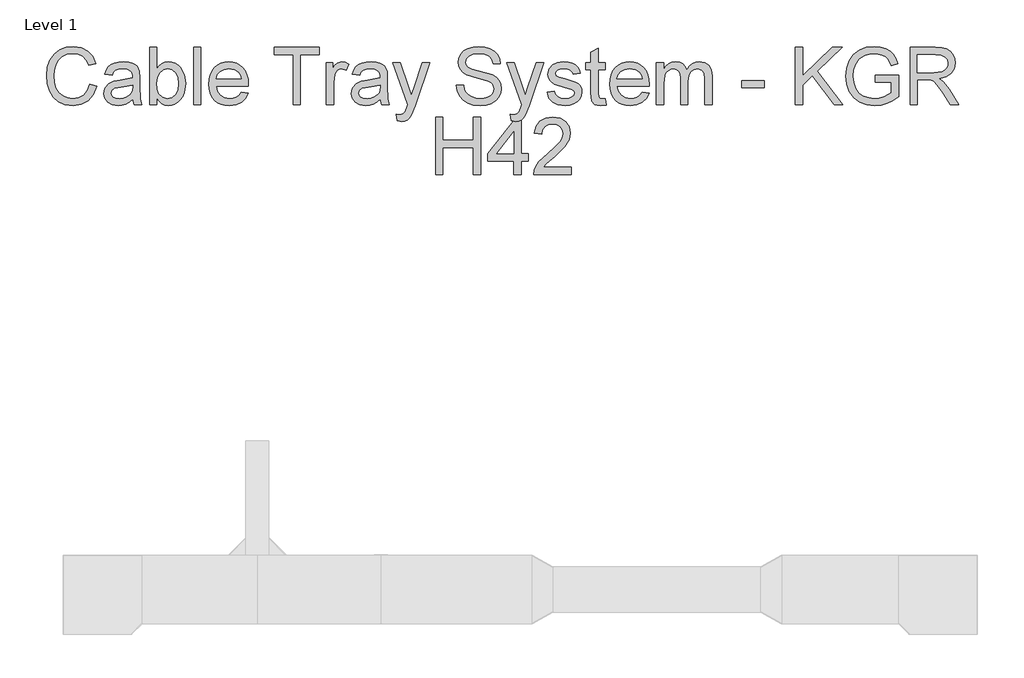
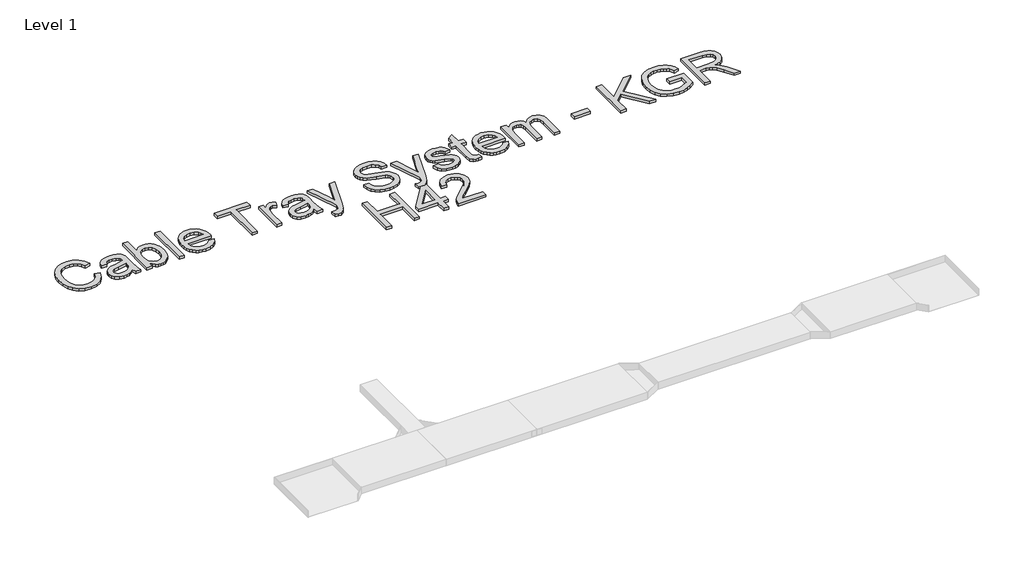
# One storey, part 13 of 32: 1 proxy.
"""IFC4 building model written with IfcOpenShell, lengths in millimetres."""

from ifc_helpers import new_model, si_unit, origin, origin_with_axes, place, context, project, spatial, polyline, outline, extrude, element, save

model = new_model("IFC4")

# Units and contexts
model_context = context("Model", 3, world=origin())
ifc_project = project(units=[si_unit("LENGTHUNIT", "METRE", prefix="MILLI")], contexts=[model_context])

# Site, building, storey
site = spatial("IfcSite", under=ifc_project)
building = spatial("IfcBuilding", under=site)
storey = spatial("IfcBuildingStorey", under=building, Name="Level 1", Elevation=0.0)

# Proxy
placement = place(None, origin())
element("IfcBuildingElementProxy", 1, Name="250mm Arial 3", ObjectType="250mm Arial 3", at=placement, inside=storey, context=model_context, shape_type="SweptSolid", body=[
    extrude(outline(polyline([(-11377.6500702, 60192.4106539), (-11346.2574733, 60184.31725), (-11360.7428268, 60147.7359841), (-11383.4748685, 60121.01089), (-11413.3346237, 60104.6631338), (-11449.2031183, 60099.2138818), (-11485.6157716, 60103.3372258), (-11514.5328292, 60115.7072579), (-11536.6977194, 60135.8947824), (-11552.8538704, 60163.4706036), (-11562.7177064, 60195.8902044), (-11566.0056517, 60230.6090677), (-11562.2885107, 60267.2286547), (-11551.1370878, 60298.8511778), (-11533.1338626, 60324.472626), (-11508.8613151, 60343.0889878), (-11480.074549, 60354.4243517), (-11448.5286679, 60358.2028064), (-11414.1087088, 60353.3130415), (-11385.6515036, 60338.643747), (-11364.0461006, 60315.0992993), (-11350.1815479, 60283.584075), (-11381.5741448, 60276.1038078), (-11392.4573205, 60298.9967978), (-11407.3258845, 60314.7007605), (-11426.3637777, 60323.7828472), (-11449.7549413, 60326.8102095), (-11476.7176258, 60323.4532863), (-11498.8671876, 60313.3825166), (-11515.6747963, 60297.6555613), (-11526.6116214, 60277.3300811), (-11532.6126965, 60254.3527848), (-11534.6130548, 60230.6703814), (-11532.2448145, 60201.6690174), (-11525.1400934, 60176.5917281), (-11513.0306444, 60156.3965394), (-11495.6482202, 60142.0414774), (-11474.809238, 60133.4652284), (-11452.3301152, 60130.6064787), (-11426.1261873, 60134.4998965), (-11404.290858, 60146.1801498), (-11387.8051461, 60165.5246114), (-11377.6500702, 60192.4106539)])), origin_with_axes(), (0.0, 0.0, 1.0), 15.0),
    extrude(outline(polyline([(-11189.2944887, 60126.6824041), (-11204.2933442, 60113.8218627), (-11219.7367238, 60105.406562), (-11235.977181, 60100.7620518), (-11253.3672695, 60099.2138818), (-11279.6018543, 60102.938687), (-11298.9539801, 60114.1131026), (-11310.8871523, 60131.0816596), (-11314.8648764, 60152.1888891), (-11313.3626915, 60165.2027147), (-11308.8561371, 60177.0209238), (-11293.0678681, 60195.0471415), (-11271.0869189, 60205.3478374), (-11243.924965, 60210.0689897), (-11189.4784297, 60220.8601949), (-11189.2944887, 60227.8499528), (-11191.4557954, 60241.8601254), (-11197.9397156, 60251.0265185), (-11212.4403975, 60257.8323354), (-11232.6432504, 60260.100941), (-11251.3439185, 60258.591092), (-11264.4037293, 60254.0615449), (-11273.3095393, 60245.6845653), (-11279.5482048, 60232.6324187), (-11310.9408017, 60236.5564933), (-11305.4915497, 60253.7243198), (-11297.3598247, 60267.2133262), (-11285.7868703, 60277.5293505), (-11270.0139298, 60285.1782303), (-11250.7231177, 60289.914711), (-11228.5965485, 60291.4935379), (-11207.3743559, 60290.098652), (-11190.5514188, 60285.9139943), (-11177.8671542, 60279.6216794), (-11169.0609789, 60271.9038217), (-11159.4347334, 60250.5973228), (-11157.9018917, 60223.1288005), (-11157.9018917, 60184.0719953), (-11156.3077364, 60129.5334895), (-11150.0537425, 60103.1379564), (-11181.4463394, 60103.1379564), (-11189.2944887, 60126.6824041)]), holes=[polyline([(-11189.2944887, 60189.4675979), (-11239.9395767, 60179.8413524), (-11266.9482465, 60174.7523181), (-11279.1803228, 60166.4749732), (-11283.4722794, 60154.3961811), (-11281.1346959, 60145.0611754), (-11274.1219454, 60137.4122956), (-11262.587312, 60132.3079329), (-11246.6840799, 60130.6064787), (-11229.8228218, 60132.4842097), (-11214.923601, 60138.1174028), (-11202.8448088, 60146.4177403), (-11194.4448366, 60156.2969047), (-11190.7200314, 60166.4749732), (-11189.4784297, 60180.5771164), (-11189.2944887, 60189.4675979)])]), origin_with_axes(), (0.0, 0.0, 1.0), 15.0),
    extrude(outline(polyline([(-11083.3444741, 60103.1379564), (-11114.737071, 60103.1379564), (-11114.737071, 60354.2787318), (-11083.3444741, 60354.2787318), (-11083.3444741, 60261.1432733), (-11073.0207856, 60274.4215141), (-11061.3635248, 60283.9059718), (-11048.3726919, 60289.5966464), (-11034.0482867, 60291.4935379), (-11017.8768073, 60289.7844195), (-11002.5943761, 60284.6570642), (-10989.0747128, 60276.4333687), (-10978.1915371, 60265.4352299), (-10963.2003458, 60235.5448178), (-10957.7740864, 60198.1128248), (-10963.391951, 60156.2049342), (-10970.4142818, 60139.2746982), (-10980.2455449, 60125.0269351), (-10992.0465095, 60113.7337243), (-11004.9779449, 60105.6671451), (-11019.0398509, 60100.8271976), (-11034.2322277, 60099.2138818), (-11049.0279817, 60101.2947143), (-11062.1452741, 60107.5372119), (-11073.5841049, 60117.9413746), (-11083.3444741, 60132.5072023), (-11083.3444741, 60103.1379564)]), holes=[polyline([(-11083.3444741, 60196.6412968), (-11081.1984958, 60170.4603615), (-11074.7605608, 60152.7407121), (-11058.31317, 60136.140037), (-11036.930029, 60130.6064787), (-11018.8118407, 60134.6838375), (-11003.3301401, 60146.9159138), (-10992.7075475, 60167.2260656), (-10989.1666833, 60195.5376509), (-10992.5619275, 60224.2631033), (-11002.7476603, 60244.3433289), (-11017.7465158, 60256.161538), (-11035.5811283, 60260.100941), (-11053.6993166, 60256.0235822), (-11069.1810172, 60243.7915059), (-11079.8036099, 60223.8492361), (-11083.3444741, 60196.6412968)])]), origin_with_axes(), (0.0, 0.0, 1.0), 15.0),
    extrude(outline(polyline([(-10922.4574148, 60103.1379564), (-10922.4574148, 60354.2787318), (-10891.0648179, 60354.2787318), (-10891.0648179, 60103.1379564), (-10922.4574148, 60103.1379564)])), origin_with_axes(), (0.0, 0.0, 1.0), 15.0),
    extrude(outline(polyline([(-10714.8493422, 60158.075001), (-10684.069882, 60154.1509264), (-10695.1599913, 60130.9590323), (-10712.8566481, 60113.6225933), (-10736.7613136, 60102.8160597), (-10766.4754489, 60099.2138818), (-10785.9540341, 60100.7678), (-10803.3096336, 60105.4295547), (-10818.5422475, 60113.1991458), (-10831.6518757, 60124.0765733), (-10842.1939941, 60137.759101), (-10849.7240787, 60153.9439928), (-10854.2421295, 60172.6312485), (-10855.7481464, 60193.8208682), (-10854.226801, 60215.7290074), (-10849.662765, 60235.0389801), (-10842.0560384, 60251.7507861), (-10831.406621, 60265.8644256), (-10818.3314818, 60277.0771622), (-10803.4475894, 60285.0862598), (-10786.7549439, 60289.8917184), (-10768.2535452, 60291.4935379), (-10750.3480387, 60289.8955505), (-10734.1554828, 60285.1015883), (-10719.6758774, 60277.1116512), (-10706.9092225, 60265.9257393), (-10696.4878153, 60251.8427566), (-10689.0439531, 60235.1616074), (-10684.5776358, 60215.8822916), (-10683.0888633, 60194.0048092), (-10683.2728043, 60185.5435233), (-10824.3555495, 60185.5435233), (-10818.9216258, 60162.0450609), (-10806.2986749, 60144.7699355), (-10788.0808519, 60134.1473429), (-10765.8623122, 60130.6064787), (-10749.1543383, 60132.2466193), (-10735.082852, 60137.1670409), (-10723.6478533, 60145.6743121), (-10714.8493422, 60158.075001)]), holes=[polyline([(-10824.3555495, 60216.9361202), (-10714.4814602, 60216.9361202), (-10718.7274316, 60233.5214669), (-10727.0507617, 60245.3856612), (-10745.352891, 60256.4221211), (-10768.3761725, 60260.100941), (-10789.5370514, 60257.1655493), (-10807.0344388, 60248.359374), (-10819.1975373, 60234.632777), (-10824.3555495, 60216.9361202)])]), origin_with_axes(), (0.0, 0.0, 1.0), 15.0),
    extrude(outline(polyline([(-10486.8851325, 60103.1379564), (-10486.8851325, 60322.8861348), (-10569.2906995, 60322.8861348), (-10569.2906995, 60354.2787318), (-10373.0869687, 60354.2787318), (-10373.0869687, 60322.8861348), (-10455.4925356, 60322.8861348), (-10455.4925356, 60103.1379564), (-10486.8851325, 60103.1379564)])), origin_with_axes(), (0.0, 0.0, 1.0), 15.0),
    extrude(outline(polyline([(-10341.6943718, 60103.1379564), (-10341.6943718, 60287.5694633), (-10314.2258495, 60287.5694633), (-10314.2258495, 60260.284882), (-10304.0784378, 60276.1038078), (-10294.7281037, 60285.423485), (-10275.1077307, 60291.4935379), (-10259.4727459, 60289.0716481), (-10243.5925064, 60281.8059787), (-10254.0771433, 60253.6630061), (-10276.150063, 60260.100941), (-10285.5233896, 60258.5527709), (-10293.9003692, 60253.9082608), (-10305.2127406, 60236.7404343), (-10310.3017749, 60200.0748621), (-10310.3017749, 60103.1379564), (-10341.6943718, 60103.1379564)])), origin_with_axes(), (0.0, 0.0, 1.0), 15.0),
    extrude(outline(polyline([(-10106.2498949, 60126.6824041), (-10121.2487504, 60113.8218627), (-10136.69213, 60105.406562), (-10152.9325872, 60100.7620518), (-10170.3226757, 60099.2138818), (-10196.5572605, 60102.938687), (-10215.9093863, 60114.1131026), (-10227.8425585, 60131.0816596), (-10231.8202826, 60152.1888891), (-10230.3180977, 60165.2027147), (-10225.8115433, 60177.0209238), (-10210.0232743, 60195.0471415), (-10188.0423251, 60205.3478374), (-10160.8803711, 60210.0689897), (-10106.4338359, 60220.8601949), (-10106.2498949, 60227.8499528), (-10108.4112016, 60241.8601254), (-10114.8951218, 60251.0265185), (-10129.3958037, 60257.8323354), (-10149.5986566, 60260.100941), (-10168.2993247, 60258.591092), (-10181.3591355, 60254.0615449), (-10190.2649455, 60245.6845653), (-10196.503611, 60232.6324187), (-10227.8962079, 60236.5564933), (-10222.4469559, 60253.7243198), (-10214.3152309, 60267.2133262), (-10202.7422765, 60277.5293505), (-10186.969336, 60285.1782303), (-10167.6785239, 60289.914711), (-10145.5519547, 60291.4935379), (-10124.3297621, 60290.098652), (-10107.506825, 60285.9139943), (-10094.8225604, 60279.6216794), (-10086.0163851, 60271.9038217), (-10076.3901396, 60250.5973228), (-10074.8572979, 60223.1288005), (-10074.8572979, 60184.0719953), (-10073.2631426, 60129.5334895), (-10067.0091487, 60103.1379564), (-10098.4017456, 60103.1379564), (-10106.2498949, 60126.6824041)]), holes=[polyline([(-10106.2498949, 60189.4675979), (-10156.8949829, 60179.8413524), (-10183.9036527, 60174.7523181), (-10196.135729, 60166.4749732), (-10200.4276856, 60154.3961811), (-10198.0901021, 60145.0611754), (-10191.0773516, 60137.4122956), (-10179.5427182, 60132.3079329), (-10163.6394861, 60130.6064787), (-10146.778228, 60132.4842097), (-10131.8790072, 60138.1174028), (-10119.800215, 60146.4177403), (-10111.4002428, 60156.2969047), (-10107.6754376, 60166.4749732), (-10106.4338359, 60180.5771164), (-10106.2498949, 60189.4675979)])]), origin_with_axes(), (0.0, 0.0, 1.0), 15.0),
    extrude(outline(polyline([(-10031.6924772, 60032.5046133), (-10035.6165518, 60062.7322506), (-10019.6749987, 60059.9731356), (-10004.7757779, 60063.4373577), (-9995.6400416, 60073.0942601), (-9987.0561284, 60096.2095122), (-9984.6035818, 60103.8124067), (-10051.3128503, 60287.5694633), (-10018.2034707, 60287.5694633), (-9982.8254855, 60185.1756413), (-9970.5014386, 60144.2181125), (-9958.1773918, 60180.3931754), (-9921.818388, 60287.5694633), (-9888.954263, 60287.5694633), (-9953.1496712, 60098.7233725), (-9969.8269883, 60057.7658437), (-9978.3649163, 60044.6907044), (-9988.0371471, 60035.6316103), (-9999.2728764, 60030.3433066), (-10012.5012998, 60028.5805387), (-10031.6924772, 60032.5046133)])), origin_with_axes(), (0.0, 0.0, 1.0), 15.0),
    extrude(outline(polyline([(-9772.7035526, 60189.4675979), (-9741.3109557, 60189.4675979), (-9737.7087778, 60172.0468526), (-9731.1942008, 60158.0443442), (-9721.0314607, 60146.9312422), (-9706.4847934, 60138.1787164), (-9688.7038303, 60132.4995381), (-9668.8382026, 60130.6064787), (-9651.3484794, 60132.0396856), (-9636.0353914, 60136.3393065), (-9623.6270382, 60143.1451234), (-9614.8515198, 60152.0969186), (-9609.632194, 60162.3746218), (-9607.8924187, 60173.1581628), (-9613.1040803, 60192.7478791), (-9621.0442001, 60200.4963936), (-9634.4412361, 60207.0033064), (-9680.150574, 60218.990128), (-9729.3547908, 60234.4718287), (-9744.9821114, 60245.0331076), (-9756.0568923, 60257.8323354), (-9762.6557756, 60272.5936004), (-9764.8554033, 60289.0409913), (-9762.1346094, 60307.4274268), (-9753.9722277, 60324.5722607), (-9740.5828559, 60339.1035995), (-9722.1810919, 60349.64955), (-9700.0928438, 60356.0644923), (-9675.6440195, 60358.2028064), (-9649.1565159, 60355.9648576), (-9625.9799502, 60349.2510112), (-9606.9420569, 60338.1992229), (-9592.8705706, 60322.9474485), (-9583.9647606, 60304.4460498), (-9580.4238964, 60283.6453887), (-9611.8164933, 60283.6453887), (-9617.5799779, 60302.3767136), (-9629.5974564, 60315.8963769), (-9648.3747666, 60324.0817513), (-9674.4177462, 60326.8102095), (-9701.0738624, 60324.1124082), (-9719.3606633, 60316.0190043), (-9729.9372706, 60304.1088247), (-9733.4628064, 60289.9606963), (-9730.9642745, 60277.8972325), (-9723.4686789, 60268.1943449), (-9705.7490295, 60259.5184612), (-9672.2104542, 60250.6586365), (-9616.660273, 60234.9010243), (-9598.7643467, 60223.5120109), (-9586.2793515, 60209.455853), (-9578.9447042, 60192.8858348), (-9576.4998218, 60173.9552405), (-9579.3125862, 60154.6031147), (-9587.7508795, 60136.4006201), (-9601.4698122, 60120.7349785), (-9620.1244951, 60108.9934115), (-9642.5576326, 60101.6587642), (-9667.6119293, 60099.2138818), (-9698.3683969, 60101.8503694), (-9723.6832767, 60109.7598323), (-9743.8478086, 60122.9729273), (-9759.1532324, 60141.5203112), (-9768.9787474, 60164.1143971), (-9772.7035526, 60189.4675979)])), origin_with_axes(), (0.0, 0.0, 1.0), 15.0),
    extrude(outline(polyline([(-9533.335001, 60032.5046133), (-9537.2590757, 60062.7322506), (-9521.3175225, 60059.9731356), (-9506.4183017, 60063.4373577), (-9497.2825655, 60073.0942601), (-9488.6986523, 60096.2095122), (-9486.2461057, 60103.8124067), (-9552.9553741, 60287.5694633), (-9519.8459946, 60287.5694633), (-9484.4680094, 60185.1756413), (-9472.1439625, 60144.2181125), (-9459.8199157, 60180.3931754), (-9423.4609118, 60287.5694633), (-9390.5967869, 60287.5694633), (-9454.7921951, 60098.7233725), (-9471.4695122, 60057.7658437), (-9480.0074402, 60044.6907044), (-9489.6796709, 60035.6316103), (-9500.9154002, 60030.3433066), (-9514.1438236, 60028.5805387), (-9533.335001, 60032.5046133)])), origin_with_axes(), (0.0, 0.0, 1.0), 15.0),
    extrude(outline(polyline([(-9376.3720164, 60158.075001), (-9344.9794195, 60161.9990756), (-9340.028341, 60148.5713828), (-9330.4480807, 60138.6998826), (-9316.177325, 60132.6298297), (-9297.1547601, 60130.6064787), (-9278.3621216, 60132.4612171), (-9265.1490266, 60138.0254323), (-9257.3315342, 60146.0881793), (-9254.7257034, 60155.4385134), (-9257.3468626, 60163.4399468), (-9265.2103402, 60169.5406565), (-9297.5226421, 60178.4924517), (-9344.7954785, 60193.851525), (-9356.7593076, 60201.5693827), (-9365.4275271, 60211.7857723), (-9370.6928381, 60223.8492361), (-9372.4479418, 60237.1083163), (-9366.8070846, 60260.4994798), (-9351.4173544, 60278.3724134), (-9331.4597562, 60287.6614338), (-9304.4510864, 60291.4935379), (-9284.0183072, 60289.9530321), (-9266.2526725, 60285.3315145), (-9251.9665884, 60278.0811735), (-9241.9724609, 60268.6541974), (-9235.350585, 60256.3531432), (-9231.1812557, 60240.4805679), (-9262.5738526, 60236.5564933), (-9266.5362483, 60246.4356577), (-9274.3767333, 60253.8776039), (-9286.1719497, 60258.5451067), (-9301.9985397, 60260.100941), (-9320.0247575, 60258.6140846), (-9332.042236, 60254.1535154), (-9338.8020677, 60247.7155805), (-9341.0553449, 60240.2966269), (-9337.3152113, 60231.1608907), (-9325.6043011, 60224.2324465), (-9298.5649745, 60217.5492569), (-9252.4877546, 60202.7726634), (-9240.3169919, 60195.7062634), (-9231.0892852, 60186.0340326), (-9225.2721511, 60173.7253142), (-9223.3331064, 60158.7494513), (-9225.6093763, 60143.2677507), (-9232.4381858, 60128.7057551), (-9243.558952, 60116.2054314), (-9258.7110916, 60106.9087468), (-9277.0132209, 60101.137598), (-9297.5839558, 60099.2138818), (-9329.2371358, 60102.9233586), (-9352.3370594, 60114.0517889), (-9367.7574464, 60132.4765455), (-9376.3720164, 60158.075001)])), origin_with_axes(), (0.0, 0.0, 1.0), 15.0),
    extrude(outline(polyline([(-9121.3071664, 60129.3188917), (-9117.3830918, 60102.2182514), (-9140.8662259, 60099.2138818), (-9155.9340592, 60100.5167972), (-9167.1697885, 60104.4255434), (-9180.290913, 60118.0984909), (-9184.0923603, 60153.7217307), (-9184.0923603, 60256.1768664), (-9207.636808, 60256.1768664), (-9207.636808, 60287.5694633), (-9184.0923603, 60287.5694633), (-9184.0923603, 60332.3897531), (-9152.6997634, 60350.8451665), (-9152.6997634, 60287.5694633), (-9121.3071664, 60287.5694633), (-9121.3071664, 60256.1768664), (-9152.6997634, 60256.1768664), (-9152.6997634, 60154.6414357), (-9151.0442944, 60138.4546279), (-9145.6793486, 60132.7218002), (-9134.9801139, 60130.6064787), (-9121.3071664, 60129.3188917)])), origin_with_axes(), (0.0, 0.0, 1.0), 15.0),
    extrude(outline(polyline([(-8960.7879892, 60158.075001), (-8930.008529, 60154.1509264), (-8941.0986383, 60130.9590323), (-8958.7952951, 60113.6225933), (-8982.6999606, 60102.8160597), (-9012.4140959, 60099.2138818), (-9031.8926811, 60100.7678), (-9049.2482806, 60105.4295547), (-9064.4808945, 60113.1991458), (-9077.5905227, 60124.0765733), (-9088.1326411, 60137.759101), (-9095.6627257, 60153.9439928), (-9100.1807765, 60172.6312485), (-9101.6867934, 60193.8208682), (-9100.165448, 60215.7290074), (-9095.601412, 60235.0389801), (-9087.9946854, 60251.7507861), (-9077.345268, 60265.8644256), (-9064.2701288, 60277.0771622), (-9049.3862364, 60285.0862598), (-9032.6935909, 60289.8917184), (-9014.1921922, 60291.4935379), (-8996.2866857, 60289.8955505), (-8980.0941298, 60285.1015883), (-8965.6145244, 60277.1116512), (-8952.8478695, 60265.9257393), (-8942.4264623, 60251.8427566), (-8934.9826001, 60235.1616074), (-8930.5162827, 60215.8822916), (-8929.0275103, 60194.0048092), (-8929.2114513, 60185.5435233), (-9070.2941964, 60185.5435233), (-9064.8602728, 60162.0450609), (-9052.2373219, 60144.7699355), (-9034.0194989, 60134.1473429), (-9011.8009592, 60130.6064787), (-8995.0929853, 60132.2466193), (-8981.021499, 60137.1670409), (-8969.5865003, 60145.6743121), (-8960.7879892, 60158.075001)]), holes=[polyline([(-9070.2941964, 60216.9361202), (-8960.4201072, 60216.9361202), (-8964.6660786, 60233.5214669), (-8972.9894087, 60245.3856612), (-8991.291538, 60256.4221211), (-9014.3148195, 60260.100941), (-9035.4756984, 60257.1655493), (-9052.9730858, 60248.359374), (-9065.1361843, 60234.632777), (-9070.2941964, 60216.9361202)])]), origin_with_axes(), (0.0, 0.0, 1.0), 15.0),
    extrude(outline(polyline([(-8897.6349134, 60103.1379564), (-8897.6349134, 60287.5694633), (-8866.2423165, 60287.5694633), (-8866.2423165, 60257.2191987), (-8856.8000119, 60271.1603935), (-8844.6599061, 60282.0818902), (-8830.2358662, 60289.140626), (-8813.9417595, 60291.4935379), (-8796.4826931, 60289.0946407), (-8782.4878489, 60281.8979492), (-8772.0338689, 60270.3786442), (-8765.1973951, 60255.0119067), (-8753.7547322, 60270.9726204), (-8740.7025856, 60282.3731301), (-8726.0409553, 60289.213436), (-8709.7698412, 60291.4935379), (-8686.171744, 60287.6997549), (-8668.7203419, 60276.3184056), (-8657.9368009, 60257.0429219), (-8654.3422872, 60229.5667354), (-8654.3422872, 60103.1379564), (-8685.7348842, 60103.1379564), (-8685.7348842, 60216.0777289), (-8688.6472833, 60242.2893211), (-8699.1932338, 60255.1958477), (-8717.1274811, 60260.100941), (-8734.1343591, 60256.9586156), (-8747.9989118, 60247.5316395), (-8757.2189543, 60231.1762191), (-8760.2923018, 60207.248561), (-8760.2923018, 60103.1379564), (-8791.6848988, 60103.1379564), (-8791.6848988, 60219.5726079), (-8793.5013161, 60237.3229141), (-8798.9505682, 60249.9841861), (-8808.5384927, 60257.5717523), (-8822.7709274, 60260.100941), (-8834.865048, 60258.4148152), (-8846.0088067, 60253.3564378), (-8855.2058566, 60245.048436), (-8861.4598505, 60233.6134374), (-8866.2423165, 60196.1507875), (-8866.2423165, 60103.1379564), (-8897.6349134, 60103.1379564)])), origin_with_axes(), (0.0, 0.0, 1.0), 15.0),
    extrude(outline(polyline([(-8524.8478249, 60177.6953741), (-8524.8478249, 60209.087971), (-8426.7459596, 60209.087971), (-8426.7459596, 60177.6953741), (-8524.8478249, 60177.6953741)])), origin_with_axes(), (0.0, 0.0, 1.0), 15.0),
    extrude(outline(polyline([(-8289.403348, 60103.1379564), (-8289.403348, 60354.2787318), (-8258.0107511, 60354.2787318), (-8258.0107511, 60231.3448317), (-8129.2520528, 60354.2787318), (-8085.351468, 60354.2787318), (-8193.4474609, 60251.0265185), (-8081.4273934, 60103.1379564), (-8119.8097482, 60103.1379564), (-8215.7043217, 60229.8119901), (-8258.0107511, 60189.4675979), (-8258.0107511, 60103.1379564), (-8289.403348, 60103.1379564)])), origin_with_axes(), (0.0, 0.0, 1.0), 15.0),
    extrude(outline(polyline([(-7940.1607073, 60201.2398218), (-7940.1607073, 60232.6324187), (-7838.1347673, 60232.6324187), (-7838.1347673, 60138.7611963), (-7862.9284809, 60121.5167277), (-7888.5039438, 60109.1466957), (-7914.7998422, 60101.6970852), (-7941.7548626, 60099.2138818), (-7976.9718994, 60103.160949), (-8008.8013562, 60115.0021507), (-8035.2428746, 60134.3236197), (-8054.2960963, 60160.7114886), (-8065.8154012, 60192.3646686), (-8069.6551696, 60227.4820708), (-8065.8307297, 60262.8523918), (-8054.3574099, 60295.7548377), (-8035.7103913, 60323.3536516), (-8010.3648547, 60342.8130763), (-7979.4934239, 60354.3553739), (-7944.2687229, 60358.2028064), (-7918.4096843, 60355.9725218), (-7895.1564765, 60349.281668), (-7875.5744245, 60338.6130901), (-7860.7288531, 60324.4496333), (-7849.7460427, 60306.109183), (-7841.7522736, 60282.9096247), (-7870.6923238, 60274.7549071), (-7885.0090648, 60303.7869279), (-7895.4017312, 60313.1985756), (-7909.4732175, 60320.5255587), (-7926.2501693, 60325.2390468), (-7944.7592322, 60326.8102095), (-7966.4259489, 60325.1164194), (-7984.9503402, 60320.0350494), (-8000.2634282, 60312.2022286), (-8012.2962352, 60302.2540863), (-8028.4523861, 60278.0658451), (-8035.810026, 60254.3681132), (-8038.2625726, 60228.7696577), (-8035.3118525, 60198.7489541), (-8026.459692, 60174.047211), (-8011.9743384, 60154.8407051), (-7992.1240391, 60141.3057134), (-7968.8938239, 60133.2812874), (-7944.2687229, 60130.6064787), (-7922.5253641, 60132.6221655), (-7901.3184999, 60138.6692258), (-7869.5273642, 60155.867709), (-7869.5273642, 60201.2398218), (-7940.1607073, 60201.2398218)])), origin_with_axes(), (0.0, 0.0, 1.0), 15.0),
    extrude(outline(polyline([(-7787.1217973, 60103.1379564), (-7787.1217973, 60354.2787318), (-7678.903177, 60354.2787318), (-7649.8175068, 60352.5849418), (-7628.6566278, 60347.5035717), (-7613.1902556, 60338.1225808), (-7601.1881055, 60323.5299283), (-7593.4855763, 60305.4347327), (-7590.9180665, 60285.5461123), (-7595.1717021, 60260.8060482), (-7607.9326088, 60240.2966269), (-7629.583997, 60225.2594504), (-7660.5090773, 60216.9361202), (-7642.6668005, 60203.5084274), (-7617.2216292, 60171.1961255), (-7575.3443954, 60103.1379564), (-7611.8260266, 60103.1379564), (-7644.5062105, 60155.1932587), (-7668.1119718, 60189.6515389), (-7684.6973184, 60205.9303172), (-7699.6271961, 60211.9083996), (-7717.8373548, 60213.0120456), (-7755.7292003, 60213.0120456), (-7755.7292003, 60103.1379564), (-7787.1217973, 60103.1379564)]), holes=[polyline([(-7755.7292003, 60244.4046425), (-7685.4637393, 60244.4046425), (-7649.6259016, 60248.8498833), (-7637.8383493, 60254.6286963), (-7629.2697645, 60263.0746538), (-7624.0504387, 60273.2910434), (-7622.3106634, 60284.3811527), (-7625.6292656, 60299.6942407), (-7635.5850721, 60312.033616), (-7652.7145775, 60320.1730051), (-7677.5542764, 60322.8861348), (-7755.7292003, 60322.8861348), (-7755.7292003, 60244.4046425)])]), origin_with_axes(), (0.0, 0.0, 1.0), 15.0),
    extrude(outline(polyline([(-9862.9572687, 59798.2009118), (-9862.9572687, 60049.3416872), (-9831.5646718, 60049.3416872), (-9831.5646718, 59947.3157472), (-9698.1461349, 59947.3157472), (-9698.1461349, 60049.3416872), (-9666.753538, 60049.3416872), (-9666.753538, 59798.2009118), (-9698.1461349, 59798.2009118), (-9698.1461349, 59915.9231502), (-9831.5646718, 59915.9231502), (-9831.5646718, 59798.2009118), (-9862.9572687, 59798.2009118)])), origin_with_axes(), (0.0, 0.0, 1.0), 15.0),
    extrude(outline(polyline([(-9521.5627772, 59798.2009118), (-9521.5627772, 59857.062031), (-9635.360941, 59857.062031), (-9635.360941, 59888.4546279), (-9513.714628, 60045.4176125), (-9490.1701803, 60045.4176125), (-9490.1701803, 59888.4546279), (-9458.7775834, 59888.4546279), (-9458.7775834, 59857.062031), (-9490.1701803, 59857.062031), (-9490.1701803, 59798.2009118), (-9521.5627772, 59798.2009118)]), holes=[polyline([(-9521.5627772, 59888.4546279), (-9521.5627772, 59985.4528473), (-9596.7333315, 59888.4546279), (-9521.5627772, 59888.4546279)])]), origin_with_axes(), (0.0, 0.0, 1.0), 15.0),
    extrude(outline(polyline([(-9270.4220018, 59829.5935087), (-9270.4220018, 59798.2009118), (-9435.2331357, 59798.2009118), (-9431.860884, 59819.8446358), (-9424.1200337, 59836.7595434), (-9412.792334, 59853.1686132), (-9373.4902741, 59889.5582739), (-9339.6144738, 59919.6479554), (-9319.2889935, 59941.8588309), (-9309.1262534, 59959.8850487), (-9305.7386734, 59977.4207571), (-9308.9346482, 59993.1400482), (-9318.5225727, 60006.2075232), (-9333.2608451, 60015.0136985), (-9351.9078638, 60017.9490902), (-9371.4899158, 60015.0826764), (-9386.7033691, 60006.4834347), (-9396.5212199, 59992.8258156), (-9399.9164641, 59974.7842695), (-9431.309061, 59978.7083441), (-9423.6985023, 60009.0739371), (-9407.2434472, 60031.2541557), (-9382.8022871, 60044.8198043), (-9351.2334134, 60049.3416872), (-9319.4346135, 60044.3139666), (-9295.0394387, 60029.2308048), (-9279.519417, 60006.6980325), (-9274.3460764, 59979.3214807), (-9279.92562, 59949.553696), (-9298.473004, 59918.7742357), (-9343.4465779, 59875.7626991), (-9379.5603271, 59845.5657187), (-9393.7237839, 59829.5935087), (-9270.4220018, 59829.5935087)])), origin_with_axes(), (0.0, 0.0, 1.0), 15.0),
])

save(model, "model.ifc")
